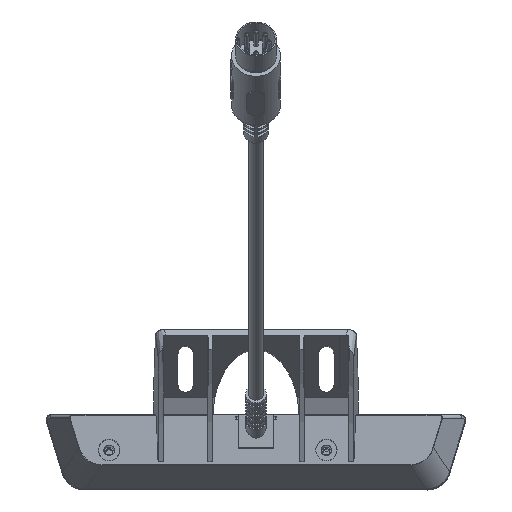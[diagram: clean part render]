
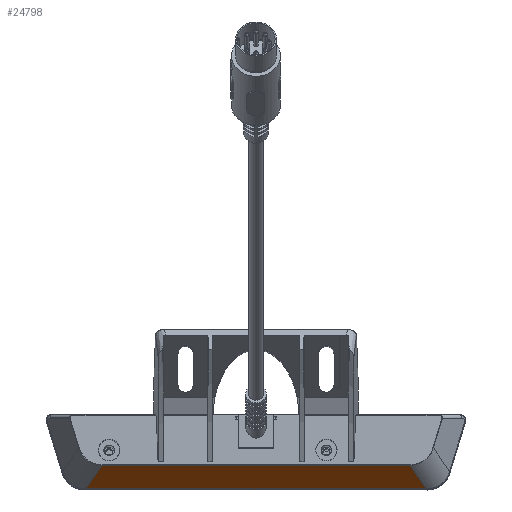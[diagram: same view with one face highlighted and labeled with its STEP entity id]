
A CAD part, top view. The second image highlights one B-rep face of the part: STEP entity #24798.
In plain terms, the highlighted planar face has unit normal (0, -0.782, 0.623) as drawn and (0.819, 0, -0.573) by its records, which use the part's own axes.
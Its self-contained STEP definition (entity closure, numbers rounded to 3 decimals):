
#515 = DIRECTION ( 'NONE',  ( 0., -1., 0. ) ) ;
#566 = EDGE_CURVE ( 'NONE', #70227, #67152, #50845, .T. ) ;
#2213 = DIRECTION ( 'NONE',  ( 0., 1., 0. ) ) ;
#6220 = CARTESIAN_POINT ( 'NONE',  ( 12.098, 55.892, -8.517 ) ) ;
#8103 = CARTESIAN_POINT ( 'NONE',  ( 4.959, 50.293, -18.715 ) ) ;
#15081 = VECTOR ( 'NONE', #17049, 1000. ) ;
#15384 = CARTESIAN_POINT ( 'NONE',  ( 12.099, -55.577, -8.515 ) ) ;
#17049 = DIRECTION ( 'NONE',  ( 0.528, 0.391, 0.754 ) ) ;
#17428 = LINE ( 'NONE', #40673, #15081 ) ;
#17772 = CARTESIAN_POINT ( 'NONE',  ( 4.959, -50.294, -18.715 ) ) ;
#19373 = PLANE ( 'NONE',  #31110 ) ;
#19665 = DIRECTION ( 'NONE',  ( -0.528, 0.391, -0.754 ) ) ;
#20843 = DIRECTION ( 'NONE',  ( -0.819, 0., 0.573 ) ) ;
#24798 = ADVANCED_FACE ( 'NONE', ( #71506 ), #19373, .F. ) ;
#27090 = CARTESIAN_POINT ( 'NONE',  ( 4.959, -61.371, -18.715 ) ) ;
#28201 = LINE ( 'NONE', #27090, #61261 ) ;
#31110 = AXIS2_PLACEMENT_3D ( 'NONE', #55509, #20843, #2213 ) ;
#34298 = ORIENTED_EDGE ( 'NONE', *, *, #41934, .T. ) ;
#36003 = EDGE_CURVE ( 'NONE', #37742, #70227, #17428, .T. ) ;
#36153 = CARTESIAN_POINT ( 'NONE',  ( 12.098, 55.575, -8.517 ) ) ;
#37742 = VERTEX_POINT ( 'NONE', #8103 ) ;
#37919 = CARTESIAN_POINT ( 'NONE',  ( 6.124, -51.157, -17.05 ) ) ;
#40673 = CARTESIAN_POINT ( 'NONE',  ( 11.785, 55.344, -8.964 ) ) ;
#41934 = EDGE_CURVE ( 'NONE', #67152, #52895, #49736, .T. ) ;
#43427 = VECTOR ( 'NONE', #19665, 1000. ) ;
#43743 = ORIENTED_EDGE ( 'NONE', *, *, #36003, .T. ) ;
#44974 = DIRECTION ( 'NONE',  ( 0., 1., 0. ) ) ;
#49081 = VECTOR ( 'NONE', #515, 1000. ) ;
#49736 = LINE ( 'NONE', #37919, #43427 ) ;
#50845 = LINE ( 'NONE', #6220, #49081 ) ;
#52087 = ORIENTED_EDGE ( 'NONE', *, *, #566, .T. ) ;
#52895 = VERTEX_POINT ( 'NONE', #17772 ) ;
#55509 = CARTESIAN_POINT ( 'NONE',  ( 11.899, -61.371, -8.8 ) ) ;
#56754 = EDGE_CURVE ( 'NONE', #52895, #37742, #28201, .T. ) ;
#61261 = VECTOR ( 'NONE', #44974, 1000. ) ;
#62994 = ORIENTED_EDGE ( 'NONE', *, *, #56754, .T. ) ;
#67152 = VERTEX_POINT ( 'NONE', #15384 ) ;
#69606 = EDGE_LOOP ( 'NONE', ( #62994, #43743, #52087, #34298 ) ) ;
#70227 = VERTEX_POINT ( 'NONE', #36153 ) ;
#71506 = FACE_OUTER_BOUND ( 'NONE', #69606, .T. ) ;
